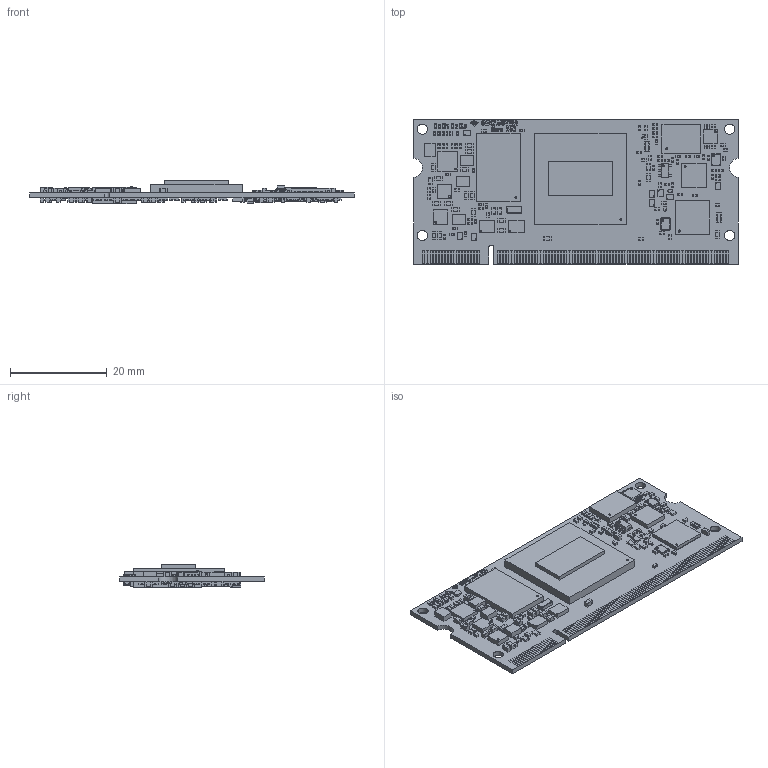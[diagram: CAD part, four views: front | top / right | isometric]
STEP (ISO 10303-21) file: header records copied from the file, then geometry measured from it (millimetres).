
FILE_DESCRIPTION(('Open CASCADE Model'),'2;1');
FILE_NAME('Open CASCADE Shape Model','2021-01-19T15:30:24',('Author'),( 'Open CASCADE'),'Open CASCADE STEP processor 6.8','Open CASCADE 6.8' ,'Unknown');
FILE_SCHEMA(('AUTOMOTIVE_DESIGN { 1 0 10303 214 1 1 1 1 }'));
Length unit declared in the file: millimetre
Products named in the file (446): PCB; Board; Open CASCADE STEP translator 6.8 1.1.1; Open CASCADE STEP translator 6.8 1.2; 3_RGB2402753; Extrude021; U_RGB2402753; Extrude006; X_RGB2402753; Extrude; Logo_Mars_RGB2402753; Extrude003; Extrude007; Open CASCADE STEP translator 6.8 1.3; J; Extrude016; Open CASCADE STEP translator 6.8 1.4; 3; Open CASCADE STEP translator 6.8 1.5; 2; Extrude019; Open CASCADE STEP translator 6.8 1.6; 1; Extrude018; Open CASCADE STEP translator 6.8 1.7; Logo_Logo_1.65mm_gold; Extrude005; Extrude009; Extrude008; Logo_Enclustra_7.56mm; Extrude002; Extrude001; Extrude004; Open CASCADE STEP translator 6.8 1.8; 0; Extrude024; Open CASCADE STEP translator 6.8 1.9; ABS07___; Pocket; Open CASCADE STEP translator 6.8 1.10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
Assembly tree (919 placements, depth 4):
  PCB
    Board
      Open CASCADE STEP translator 6.8 1.1.1
    Open CASCADE STEP translator 6.8 1.2
      3_RGB2402753
        Extrude021
      U_RGB2402753
        Extrude006
      X_RGB2402753
        Extrude
      Logo_Mars_RGB2402753
        Extrude
        Extrude003
        Extrude006
        Extrude007
    Open CASCADE STEP translator 6.8 1.3
      J
        Extrude016
    Open CASCADE STEP translator 6.8 1.4
      3
        Extrude021
    Open CASCADE STEP translator 6.8 1.5
      2
        Extrude019
    Open CASCADE STEP translator 6.8 1.6
      1
        Extrude018
    Open CASCADE STEP translator 6.8 1.7
      Logo_Logo_1.65mm_gold
        Extrude005
        Extrude007
        Extrude009
        Extrude008
        Extrude006
      Logo_Enclustra_7.56mm
        Extrude008
        Extrude006
        Extrude
        Extrude002
        Extrude001
        Extrude007
        Extrude005
        Extrude004
        Extrude003
    Open CASCADE STEP translator 6.8 1.8
      0
        Extrude024
    Open CASCADE STEP translator 6.8 1.9
      ABS07___
        Pocket
    Open CASCADE STEP translator 6.8 1.10
      5764904688
    Open CASCADE STEP translator 6.8 1.11
      6129987600
        Extruded
      6129987280
        Cylinder
    Open CASCADE STEP translator 6.8 1.12
      6129987600
        Extruded
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Bounding box: 67.2 x 30 x 4.85 mm (x, y, z)
Volume: 3546 mm3; surface area: 8974.1 mm2
Topology: 1075 solids, 1075 shells, 9409 faces, 21088 edges, 13780 vertices
Faces by surface type: plane 8401, extrusion 744, cylinder 240, sphere 20, torus 4
Full cylindrical faces by diameter (mm): 0.2 x13, 0.3 x1, 0.4 x15, 2.1 x4
Entity records: 98545 total; most frequent: CARTESIAN_POINT 19801, ORIENTED_EDGE 12958, DIRECTION 11367, EDGE_CURVE 6479, VECTOR 5399, LINE 4655, VERTEX_POINT 4222, AXIS2_PLACEMENT_3D 2984
